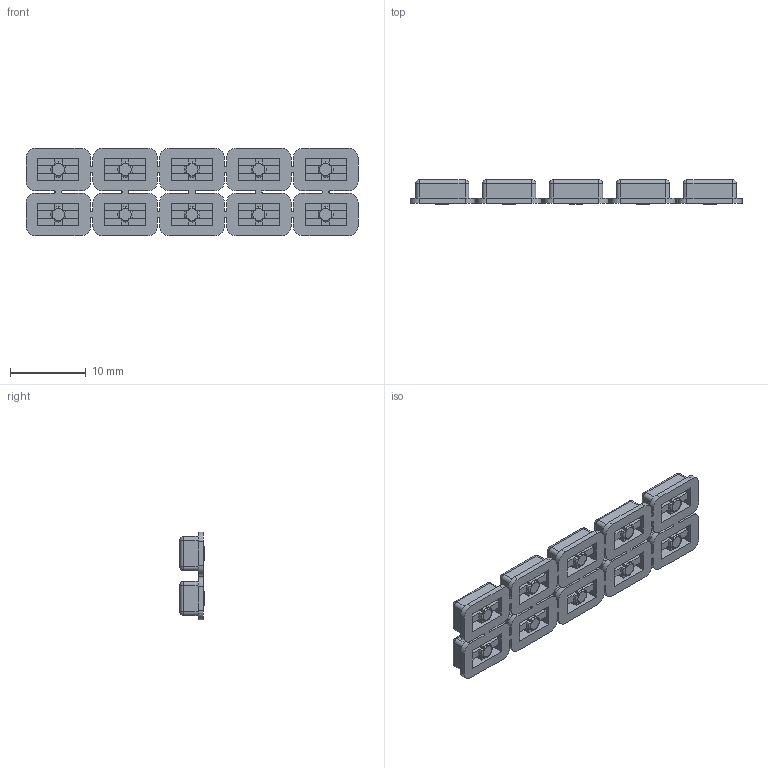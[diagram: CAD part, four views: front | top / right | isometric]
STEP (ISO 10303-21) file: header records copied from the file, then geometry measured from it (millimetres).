
FILE_DESCRIPTION (( 'STEP AP214' ), '1' );
FILE_NAME ('LITE_cap_2x5_0104.STEP', '2022-01-04T03:42:50', ( '' ), ( '' ), 'SwSTEP 2.0', 'SolidWorks 2019', '' );
FILE_SCHEMA (( 'AUTOMOTIVE_DESIGN' ));
Length unit declared in the file: millimetre
Products named in the file (1): LITE_cap_2x5_0104
Bounding box: 43.7 x 3.2 x 11.5 mm (x, y, z)
Volume: 853.3 mm3; surface area: 2160.6 mm2
Topology: 1 solids, 1 shells, 640 faces, 1774 edges, 1116 vertices
Faces by surface type: plane 330, cylinder 220, torus 50, sphere 40
Entity records: 20338 total; most frequent: CARTESIAN_POINT 3891, ORIENTED_EDGE 3468, DIRECTION 3446, EDGE_CURVE 1734, AXIS2_PLACEMENT_3D 1151, LINE 1144, VECTOR 1144, VERTEX_POINT 1116
